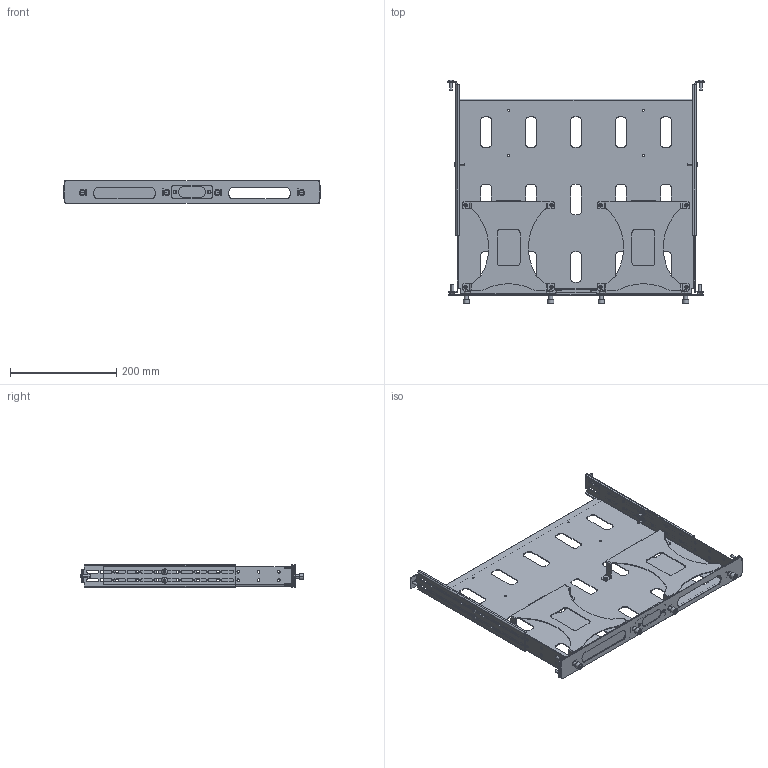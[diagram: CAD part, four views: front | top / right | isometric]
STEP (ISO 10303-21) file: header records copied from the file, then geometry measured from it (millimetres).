
FILE_DESCRIPTION((''),'2;1');
FILE_NAME('RACK_KIT_RPL_ASM','2021-03-04T13:30:50',('mthomps2'),(''),'CREO PARAMETRIC BY PTC INC, 2019080','CREO PARAMETRIC BY PTC INC, 2019080','');
FILE_SCHEMA(('CONFIG_CONTROL_DESIGN','SHAPE_APPEARANCE_LAYERS_GROUPS'));
Length unit declared in the file: inch
Products named in the file (18): BRACKET_MAIN_RACK_PLATFORM_RPL; BRACKET_TOP_RACK_REPLAY; RAS-632-10-4; CUSHION_PORON_093_RPL; BRACKET_TOP_RACK_ASSY_RPL_ASM; RIVET_POP_SKK3035PT_AFF; BRACKET_MAIN_ASSY_RACK_RPL_ASM; BRKT_RACK_STATIONARY_REAR_SUS; BRACKET_FRONT_RACK_RPL; PF11MW-632-12; FH-032-6; BRACKET_FRONT_ASSY_RACK_RPL_ASM; BRACKET_CLOSURE_RPL; BRACKET_CLOSURE_ASSY_RPL_ASM; BRACKET_CLOSURE_MIDDLE_RPL; SCREW_TH_10-32X625_POZ_ST_LIB; NUT_LK-WASH_HEX375_10-32_LIB; RACK_KIT_RPL_ASM
Assembly tree (52 placements, depth 4):
  RACK_KIT_RPL_ASM
    BRACKET_MAIN_ASSY_RACK_RPL_ASM
      BRACKET_MAIN_RACK_PLATFORM_RPL
      BRACKET_TOP_RACK_ASSY_RPL_ASM  x2
        BRACKET_TOP_RACK_REPLAY
        RAS-632-10-4
        CUSHION_PORON_093_RPL
      RIVET_POP_SKK3035PT_AFF  x8
    BRKT_RACK_STATIONARY_REAR_SUS  x2
    BRACKET_FRONT_ASSY_RACK_RPL_ASM
      BRACKET_FRONT_RACK_RPL
      PF11MW-632-12  x4
      FH-032-6  x2
    BRACKET_CLOSURE_ASSY_RPL_ASM
      BRACKET_CLOSURE_RPL
    BRACKET_CLOSURE_MIDDLE_RPL  x3
    SCREW_TH_10-32X625_POZ_ST_LIB  x10
    NUT_LK-WASH_HEX375_10-32_LIB  x6
Bounding box: 483.79 x 420.64 x 43.18 mm (x, y, z)
Volume: 432451.6 mm3; surface area: 569382.1 mm2
Topology: 56 solids, 56 shells, 2434 faces, 6372 edges, 4102 vertices
Faces by surface type: plane 1240, cylinder 982, cone 172, torus 20, sphere 20
Entity records: 45265 total; most frequent: DIRECTION 5612, CARTESIAN_POINT 5480, ORIENTED_EDGE 5152, PRESENTATION_STYLE_ASSIGNMENT 3415, STYLED_ITEM 3415, CURVE_STYLE 2576, EDGE_CURVE 2576, AXIS2_PLACEMENT_3D 2014
